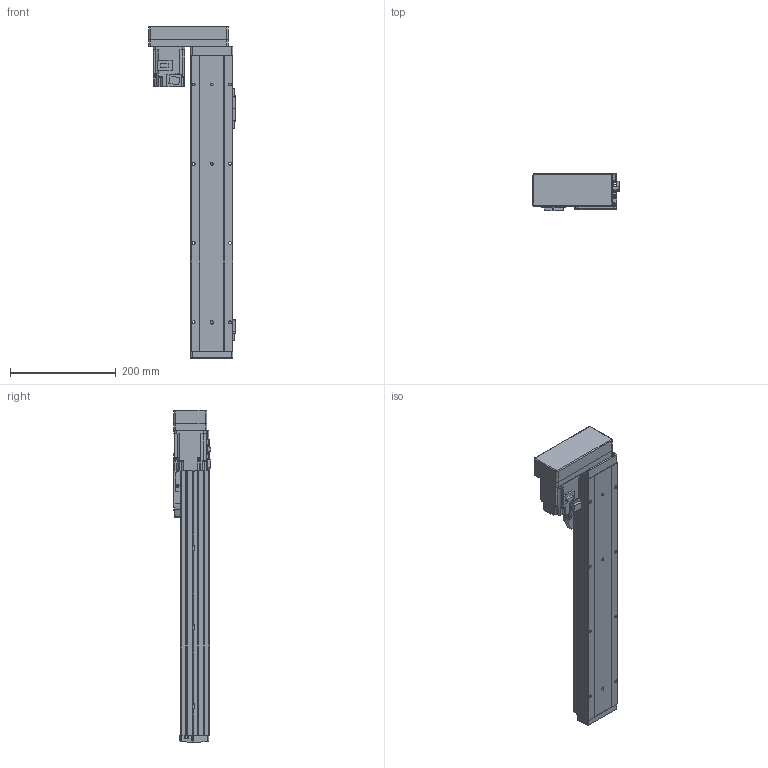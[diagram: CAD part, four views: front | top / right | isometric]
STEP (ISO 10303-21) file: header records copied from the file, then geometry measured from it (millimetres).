
FILE_DESCRIPTION (( 'STEP AP214' ), '1' );
FILE_NAME ('GSH8-400-BR-M20-1.step', '2025-01-07T06:10:17', ( '' ), ( '' ), 'SwSTEP 2.0', 'SolidWorks 2012', '' );
FILE_SCHEMA (( 'AUTOMOTIVE_DESIGN' ));
Length unit declared in the file: millimetre
Products named in the file (5): GSH8-BL-008; GSH8-GY-004; HG-KR23_200W_Motor; GSH8-400-BR-M20-1; GSH8-BL-011-400-M20
Assembly tree (4 placements, depth 2):
  GSH8-400-BR-M20-1
    GSH8-BL-011-400-M20
    GSH8-GY-004
    GSH8-BL-008
    HG-KR23_200W_Motor
Bounding box: 163 x 71.3 x 628.2 mm (x, y, z)
Volume: 1788411.9 mm3; surface area: 416779.4 mm2
Topology: 4 solids, 8 shells, 1097 faces, 2867 edges, 1843 vertices
Faces by surface type: plane 624, cylinder 377, torus 42, cone 26, bspline 24, sphere 4
Entity records: 43023 total; most frequent: CARTESIAN_POINT 9756, DIRECTION 5819, ORIENTED_EDGE 5718, EDGE_CURVE 2859, AXIS2_PLACEMENT_3D 1958, LINE 1903, VECTOR 1903, VERTEX_POINT 1839
